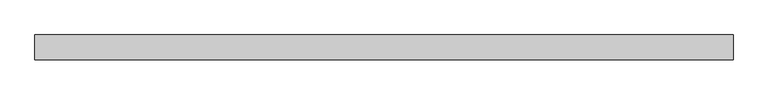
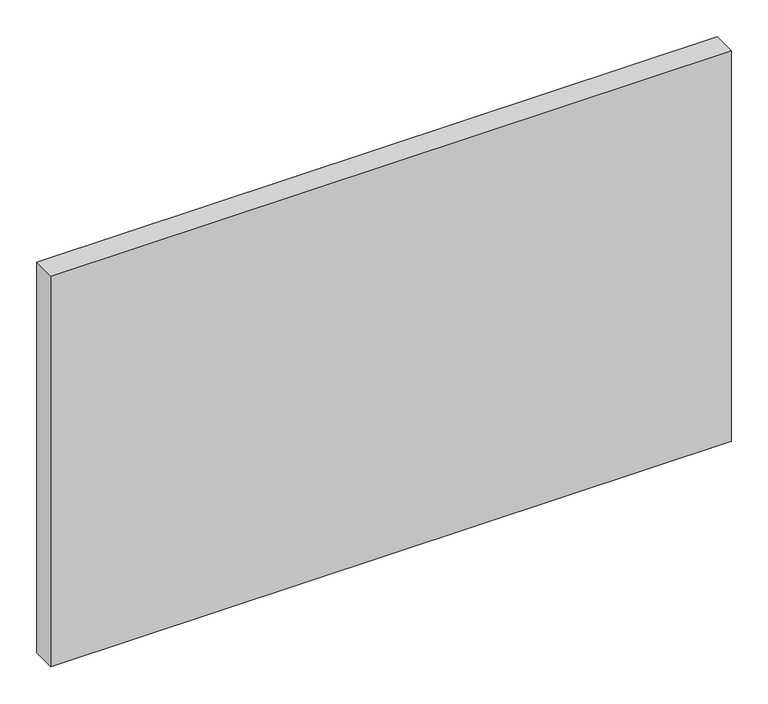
"""IFC4 building model written with IfcOpenShell, lengths in millimetres: proxy geometry, FOUNDATION^PO5_WIRE WALL-WORKSURFACE."""

from ifc_helpers import new_model, si_unit, origin, origin_with_axes, place, context, project, spatial, polyline, outline, extrude, source, transform, mapped, element, save


def generic_models_d89a80fd(model_context):
    return source(origin(), model_context, "Body", "SweptSolid", [
        extrude(outline(polyline([(1066.8, 0.0), (0.0, 0.0), (0.0, 38.1), (1066.8, 38.1), (1066.8, 0.0)])), origin_with_axes(), (0.0, 0.0, 1.0), 647.7),
    ])


if __name__ == "__main__":
    model = new_model("IFC4")
    model_context = context("Model", 3, world=origin())
    ifc_project = project(units=[si_unit("LENGTHUNIT", "METRE", prefix="MILLI")], contexts=[model_context])
    site = spatial("IfcSite", under=ifc_project)
    building = spatial("IfcBuilding", under=site)
    placement = place(None, origin())
    generic_models_shape = generic_models_d89a80fd(model_context)
    element("IfcBuildingElementProxy", 1, Name="FOUNDATION^PO5_WIRE WALL-WORKSURFACE", ObjectType="FOUNDATION^PO5_WIRE WALL-WORKSURFACE", at=placement, inside=building, context=model_context, shape_type="MappedRepresentation", body=[
        mapped(generic_models_shape, transform((0.0, 0.0, 0.0), x_axis=(1.0, 0.0, 0.0), y_axis=(0.0, 1.0, 0.0), z_axis=(0.0, 0.0, 1.0))),
    ])
    save(model, "model.ifc")
